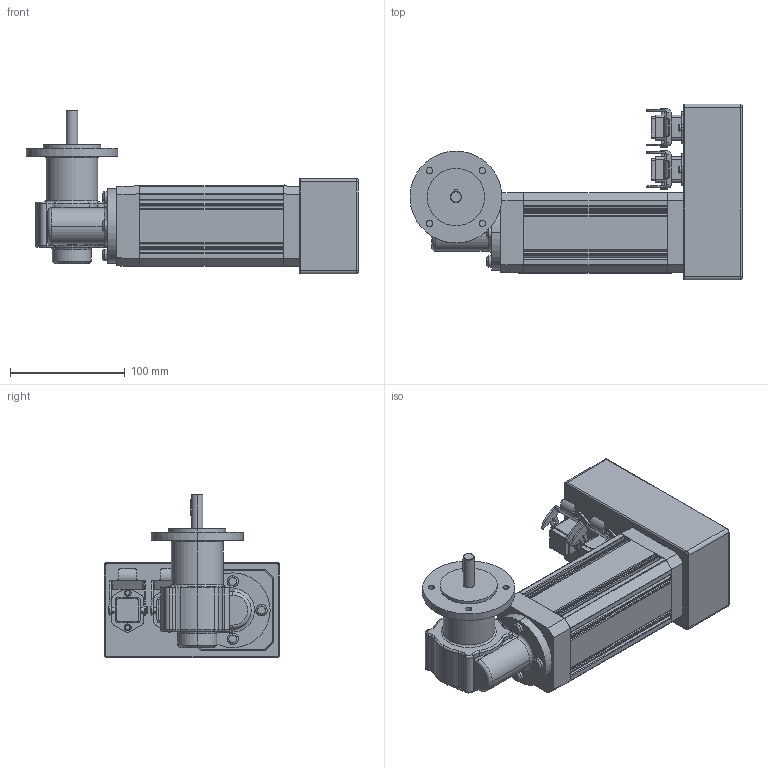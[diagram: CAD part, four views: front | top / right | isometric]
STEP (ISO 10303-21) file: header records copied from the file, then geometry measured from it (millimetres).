
FILE_DESCRIPTION(('OneSpaceDesigner STEP Export'),'2;1');
FILE_NAME('UECG323TH_GF128-10_F.stp','2008-06-25T 7:11:13',(''),(''),'OneSpace Designer STEP processor (Jan. 2003) for AP214(CD)(Solid Model)','OneSpace Designer 12.01D 09-Jul-2004 (C) CoCreate Software GmbH','');
FILE_SCHEMA(('AUTOMOTIVE_DESIGN_CC2 {1 2 10303 214 -1 1 5 1}'));
Length unit declared in the file: millimetre
Products named in the file (2): UECG323TH_GF128-10_F
Assembly tree (1 placements, depth 2):
  UECG323TH_GF128-10_F
    UECG323TH_GF128-10_F
Bounding box: 289 x 153 x 142.5 mm (x, y, z)
Volume: 1718770 mm3; surface area: 150512.6 mm2
Topology: 1 solids, 1 shells, 599 faces, 1610 edges, 1044 vertices
Faces by surface type: cylinder 305, plane 200, torus 90, cone 4
Entity records: 19972 total; most frequent: CARTESIAN_POINT 5563, ORIENTED_EDGE 3220, DIRECTION 2875, EDGE_CURVE 1610, AXIS2_PLACEMENT_3D 1050, VERTEX_POINT 1044, VECTOR 775, LINE 775
